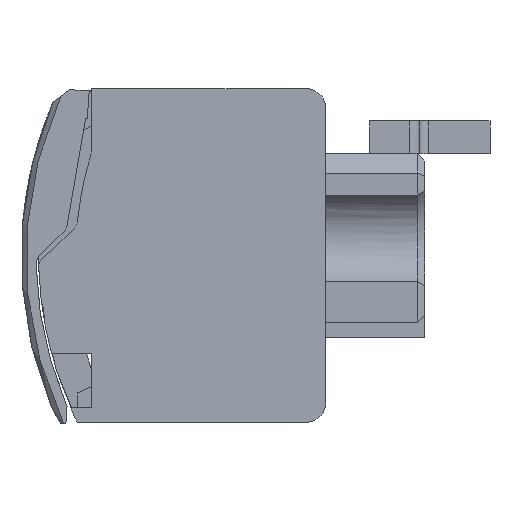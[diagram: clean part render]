
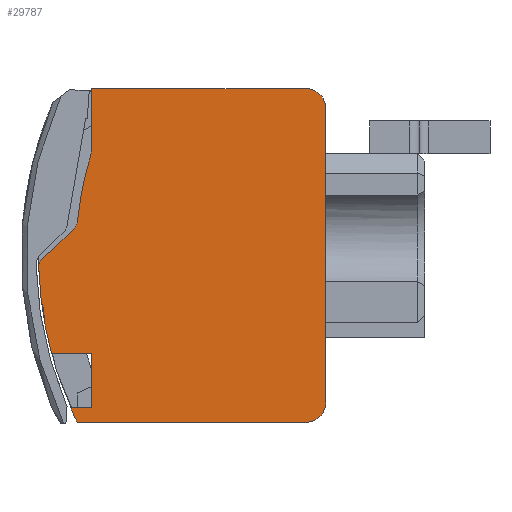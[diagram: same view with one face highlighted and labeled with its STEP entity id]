
A CAD part, left-side view. The second image highlights one B-rep face of the part: STEP entity #29787.
In plain terms, the highlighted planar face has unit normal (-1, 0, 0).
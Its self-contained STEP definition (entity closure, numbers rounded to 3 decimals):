
#28270=DIRECTION('',(0.,0.,-1.));
#28271=VECTOR('',#28270,6.415);
#28272=CARTESIAN_POINT('',(-108.16,24.22,17.265));
#28273=LINE('',#28272,#28271);
#28286=CARTESIAN_POINT('',(-108.16,25.72,10.85));
#28287=DIRECTION('',(-1.,0.,0.));
#28288=DIRECTION('',(0.,-0.956,-0.294));
#28289=AXIS2_PLACEMENT_3D('',#28286,#28287,#28288);
#28291=DIRECTION('',(0.,-1.,0.));
#28292=VECTOR('',#28291,22.22);
#28293=CARTESIAN_POINT('',(-108.16,24.22,17.265));
#28294=LINE('',#28293,#28292);
#28295=CARTESIAN_POINT('',(-108.16,2.,15.265));
#28296=DIRECTION('',(1.,0.,0.));
#28297=DIRECTION('',(0.,0.,1.));
#28298=AXIS2_PLACEMENT_3D('',#28295,#28296,#28297);
#28300=DIRECTION('',(0.,0.,-1.));
#28301=VECTOR('',#28300,30.53);
#28302=CARTESIAN_POINT('',(-108.16,0.,15.265));
#28303=LINE('',#28302,#28301);
#28304=CARTESIAN_POINT('',(-108.16,2.,-15.265));
#28305=DIRECTION('',(1.,0.,0.));
#28306=DIRECTION('',(0.,-1.,0.));
#28307=AXIS2_PLACEMENT_3D('',#28304,#28305,#28306);
#28309=DIRECTION('',(0.,1.,0.));
#28310=VECTOR('',#28309,23.7);
#28311=CARTESIAN_POINT('',(-108.16,2.,-17.265));
#28312=LINE('',#28311,#28310);
#28313=CARTESIAN_POINT('',(-108.16,-9.549,0.));
#28314=DIRECTION('',(1.,0.,0.));
#28315=DIRECTION('',(0.,0.898,-0.44));
#28316=AXIS2_PLACEMENT_3D('',#28313,#28314,#28315);
#28318=DIRECTION('',(0.,-1.,0.));
#28319=VECTOR('',#28318,2.196);
#28320=CARTESIAN_POINT('',(-108.16,26.396,-15.765));
#28321=LINE('',#28320,#28319);
#28322=DIRECTION('',(0.,0.,1.));
#28323=VECTOR('',#28322,5.615);
#28324=CARTESIAN_POINT('',(-108.16,24.2,-15.765));
#28325=LINE('',#28324,#28323);
#28326=DIRECTION('',(0.,1.,0.));
#28327=VECTOR('',#28326,4.166);
#28328=CARTESIAN_POINT('',(-108.16,24.2,-10.15));
#28329=LINE('',#28328,#28327);
#28330=CARTESIAN_POINT('',(-108.16,-9.549,0.));
#28331=DIRECTION('',(1.,0.,0.));
#28332=DIRECTION('',(0.,0.966,-0.259));
#28333=AXIS2_PLACEMENT_3D('',#28330,#28331,#28332);
#28335=CARTESIAN_POINT('',(-108.16,28.683,-1.169));
#28336=DIRECTION('',(-1.,0.,0.));
#28337=DIRECTION('',(0.,0.688,0.725));
#28338=AXIS2_PLACEMENT_3D('',#28335,#28336,#28337);
#28340=DIRECTION('',(0.,-0.725,0.688));
#28341=VECTOR('',#28340,4.469);
#28342=CARTESIAN_POINT('',(-108.16,29.372,-0.444));
#28343=LINE('',#28342,#28341);
#28344=CARTESIAN_POINT('',(-108.16,27.163,3.72));
#28345=DIRECTION('',(-1.,0.,0.));
#28346=DIRECTION('',(0.,-0.688,-0.725));
#28347=AXIS2_PLACEMENT_3D('',#28344,#28345,#28346);
#28349=CARTESIAN_POINT('',(-108.16,-9.549,0.));
#28350=DIRECTION('',(-1.,0.,0.));
#28351=DIRECTION('',(0.,0.956,0.294));
#28352=AXIS2_PLACEMENT_3D('',#28349,#28350,#28351);
#28815=CARTESIAN_POINT('',(-108.16,2.,17.265));
#28816=CARTESIAN_POINT('',(-108.16,0.,15.265));
#28817=VERTEX_POINT('',#28815);
#28818=VERTEX_POINT('',#28816);
#28819=CARTESIAN_POINT('',(-108.16,0.,-15.265));
#28820=VERTEX_POINT('',#28819);
#28821=CARTESIAN_POINT('',(-108.16,2.,-17.265));
#28822=VERTEX_POINT('',#28821);
#28823=CARTESIAN_POINT('',(-108.16,25.7,-17.265));
#28824=VERTEX_POINT('',#28823);
#28921=CARTESIAN_POINT('',(-108.16,26.396,-15.765));
#28922=CARTESIAN_POINT('',(-108.16,24.2,-15.765));
#28923=VERTEX_POINT('',#28921);
#28924=VERTEX_POINT('',#28922);
#28925=CARTESIAN_POINT('',(-108.16,24.2,-10.15));
#28926=VERTEX_POINT('',#28925);
#28927=CARTESIAN_POINT('',(-108.16,28.366,-10.15));
#28928=VERTEX_POINT('',#28927);
#29001=CARTESIAN_POINT('',(-108.16,24.22,17.265));
#29002=VERTEX_POINT('',#29001);
#29013=CARTESIAN_POINT('',(-108.16,24.286,10.409));
#29014=CARTESIAN_POINT('',(-108.16,24.22,10.85));
#29015=VERTEX_POINT('',#29013);
#29016=VERTEX_POINT('',#29014);
#29017=CARTESIAN_POINT('',(-108.16,29.372,-0.444));
#29018=CARTESIAN_POINT('',(-108.16,29.683,-1.2));
#29019=VERTEX_POINT('',#29017);
#29020=VERTEX_POINT('',#29018);
#29021=CARTESIAN_POINT('',(-108.16,26.13,2.632));
#29022=VERTEX_POINT('',#29021);
#29023=CARTESIAN_POINT('',(-108.16,25.671,3.569));
#29024=VERTEX_POINT('',#29023);
#29750=CARTESIAN_POINT('',(-108.16,0.,0.));
#29751=DIRECTION('',(1.,0.,0.));
#29752=DIRECTION('',(0.,0.,-1.));
#29753=AXIS2_PLACEMENT_3D('',#29750,#29751,#29752);
#29754=PLANE('',#29753);
#29756=ORIENTED_EDGE('',*,*,#29755,.T.);
#29757=ORIENTED_EDGE('',*,*,#29732,.F.);
#29759=ORIENTED_EDGE('',*,*,#29758,.T.);
#29761=ORIENTED_EDGE('',*,*,#29760,.T.);
#29762=ORIENTED_EDGE('',*,*,#29306,.T.);
#29764=ORIENTED_EDGE('',*,*,#29763,.T.);
#29766=ORIENTED_EDGE('',*,*,#29765,.T.);
#29768=ORIENTED_EDGE('',*,*,#29767,.T.);
#29770=ORIENTED_EDGE('',*,*,#29769,.T.);
#29772=ORIENTED_EDGE('',*,*,#29771,.T.);
#29774=ORIENTED_EDGE('',*,*,#29773,.T.);
#29776=ORIENTED_EDGE('',*,*,#29775,.T.);
#29778=ORIENTED_EDGE('',*,*,#29777,.F.);
#29780=ORIENTED_EDGE('',*,*,#29779,.T.);
#29782=ORIENTED_EDGE('',*,*,#29781,.T.);
#29784=ORIENTED_EDGE('',*,*,#29783,.F.);
#29785=EDGE_LOOP('',(#29756,#29757,#29759,#29761,#29762,#29764,#29766,#29768,
#29770,#29772,#29774,#29776,#29778,#29780,#29782,#29784));
#29786=FACE_OUTER_BOUND('',#29785,.F.);
#29787=ADVANCED_FACE('',(#29786),#29754,.F.);
#28290=CIRCLE('',#28289,1.5);
#28299=CIRCLE('',#28298,2.);
#28308=CIRCLE('',#28307,2.);
#28317=CIRCLE('',#28316,39.25);
#28334=CIRCLE('',#28333,39.25);
#28339=CIRCLE('',#28338,1.);
#28348=CIRCLE('',#28347,1.5);
#28353=CIRCLE('',#28352,35.4);
#29306=EDGE_CURVE('',#28818,#28820,#28303,.T.);
#29732=EDGE_CURVE('',#29002,#29016,#28273,.T.);
#29755=EDGE_CURVE('',#29015,#29016,#28290,.T.);
#29758=EDGE_CURVE('',#29002,#28817,#28294,.T.);
#29760=EDGE_CURVE('',#28817,#28818,#28299,.T.);
#29763=EDGE_CURVE('',#28820,#28822,#28308,.T.);
#29765=EDGE_CURVE('',#28822,#28824,#28312,.T.);
#29767=EDGE_CURVE('',#28824,#28923,#28317,.T.);
#29769=EDGE_CURVE('',#28923,#28924,#28321,.T.);
#29771=EDGE_CURVE('',#28924,#28926,#28325,.T.);
#29773=EDGE_CURVE('',#28926,#28928,#28329,.T.);
#29775=EDGE_CURVE('',#28928,#29020,#28334,.T.);
#29777=EDGE_CURVE('',#29019,#29020,#28339,.T.);
#29779=EDGE_CURVE('',#29019,#29022,#28343,.T.);
#29781=EDGE_CURVE('',#29022,#29024,#28348,.T.);
#29783=EDGE_CURVE('',#29015,#29024,#28353,.T.);
